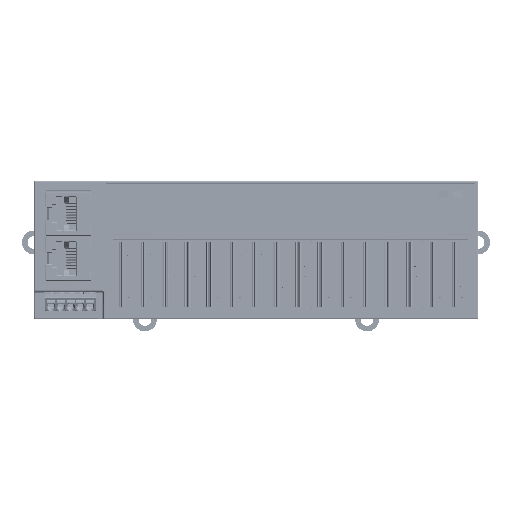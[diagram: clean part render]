
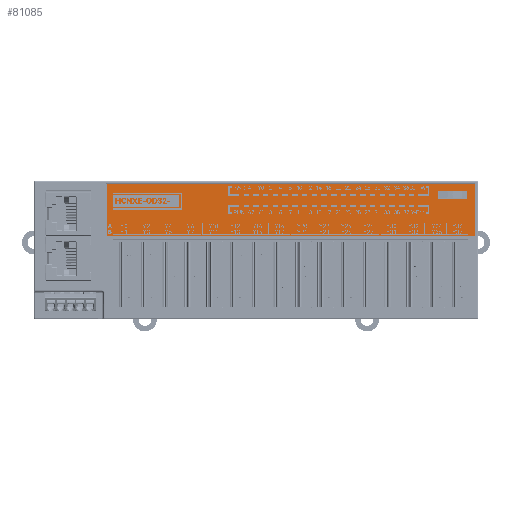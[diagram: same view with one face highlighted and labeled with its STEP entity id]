
A CAD part, top view. The second image highlights one B-rep face of the part: STEP entity #81085.
In plain terms, the highlighted planar face has unit normal (0, 0, 1).
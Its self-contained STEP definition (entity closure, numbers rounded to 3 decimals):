
#18133=DIRECTION('',(1.,0.,0.));
#18134=VECTOR('',#18133,132.66);
#18135=CARTESIAN_POINT('',(-52.83,1.22,24.));
#18136=LINE('',#18135,#18134);
#18141=DIRECTION('',(0.,-1.,0.));
#18142=VECTOR('',#18141,18.91);
#18143=CARTESIAN_POINT('',(-52.83,20.13,24.));
#18144=LINE('',#18143,#18142);
#18153=DIRECTION('',(1.,0.,0.));
#18154=VECTOR('',#18153,132.66);
#18155=CARTESIAN_POINT('',(-52.83,20.13,24.));
#18156=LINE('',#18155,#18154);
#18169=DIRECTION('',(0.,-1.,0.));
#18170=VECTOR('',#18169,18.91);
#18171=CARTESIAN_POINT('',(79.83,20.13,24.));
#18172=LINE('',#18171,#18170);
#18177=DIRECTION('',(1.,0.,0.));
#18178=VECTOR('',#18177,10.4);
#18179=CARTESIAN_POINT('',(66.55,17.655,24.));
#18180=LINE('',#18179,#18178);
#18181=DIRECTION('',(0.,-1.,0.));
#18182=VECTOR('',#18181,2.9);
#18183=CARTESIAN_POINT('',(66.55,17.655,24.));
#18184=LINE('',#18183,#18182);
#18189=DIRECTION('',(1.,0.,0.));
#18190=VECTOR('',#18189,10.4);
#18191=CARTESIAN_POINT('',(66.55,14.755,24.));
#18192=LINE('',#18191,#18190);
#18201=DIRECTION('',(0.,-1.,0.));
#18202=VECTOR('',#18201,2.9);
#18203=CARTESIAN_POINT('',(76.95,17.655,24.));
#18204=LINE('',#18203,#18202);
#46172=CARTESIAN_POINT('',(-52.83,1.22,24.));
#46173=CARTESIAN_POINT('',(79.83,1.22,24.));
#46174=VERTEX_POINT('',#46172);
#46175=VERTEX_POINT('',#46173);
#46176=CARTESIAN_POINT('',(79.83,20.13,24.));
#46177=VERTEX_POINT('',#46176);
#46178=CARTESIAN_POINT('',(-52.83,20.13,24.));
#46179=VERTEX_POINT('',#46178);
#46180=CARTESIAN_POINT('',(66.55,17.655,24.));
#46181=CARTESIAN_POINT('',(76.95,17.655,24.));
#46182=VERTEX_POINT('',#46180);
#46183=VERTEX_POINT('',#46181);
#46184=CARTESIAN_POINT('',(76.95,14.755,24.));
#46185=VERTEX_POINT('',#46184);
#46186=CARTESIAN_POINT('',(66.55,14.755,24.));
#46187=VERTEX_POINT('',#46186);
#81064=CARTESIAN_POINT('',(13.5,10.675,24.));
#81065=DIRECTION('',(0.,0.,1.));
#81066=DIRECTION('',(1.,0.,0.));
#81067=AXIS2_PLACEMENT_3D('',#81064,#81065,#81066);
#81068=PLANE('',#81067);
#81069=ORIENTED_EDGE('',*,*,#80988,.F.);
#81070=ORIENTED_EDGE('',*,*,#81010,.F.);
#81071=ORIENTED_EDGE('',*,*,#81031,.T.);
#81072=ORIENTED_EDGE('',*,*,#81051,.T.);
#81073=EDGE_LOOP('',(#81069,#81070,#81071,#81072));
#81074=FACE_OUTER_BOUND('',#81073,.F.);
#81076=ORIENTED_EDGE('',*,*,#81075,.F.);
#81078=ORIENTED_EDGE('',*,*,#81077,.T.);
#81080=ORIENTED_EDGE('',*,*,#81079,.T.);
#81082=ORIENTED_EDGE('',*,*,#81081,.F.);
#81083=EDGE_LOOP('',(#81076,#81078,#81080,#81082));
#81084=FACE_BOUND('',#81083,.F.);
#81085=ADVANCED_FACE('',(#81074,#81084),#81068,.T.);
#80988=EDGE_CURVE('',#46174,#46175,#18136,.T.);
#81010=EDGE_CURVE('',#46179,#46174,#18144,.T.);
#81031=EDGE_CURVE('',#46179,#46177,#18156,.T.);
#81051=EDGE_CURVE('',#46177,#46175,#18172,.T.);
#81075=EDGE_CURVE('',#46182,#46183,#18180,.T.);
#81077=EDGE_CURVE('',#46182,#46187,#18184,.T.);
#81079=EDGE_CURVE('',#46187,#46185,#18192,.T.);
#81081=EDGE_CURVE('',#46183,#46185,#18204,.T.);
